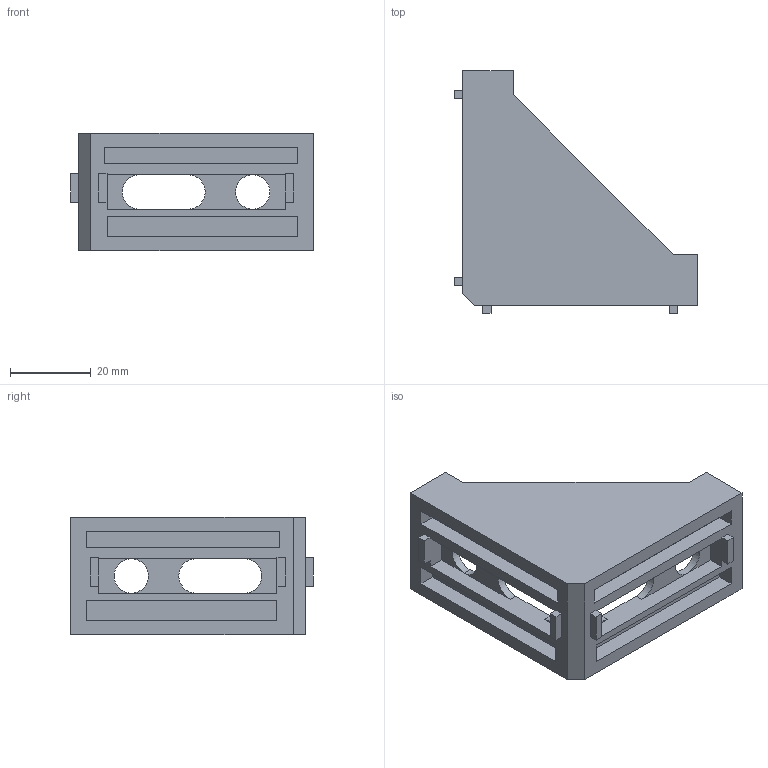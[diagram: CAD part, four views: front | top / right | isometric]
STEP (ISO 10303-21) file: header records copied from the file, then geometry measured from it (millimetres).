
FILE_DESCRIPTION (( 'STEP AP203' ), '1' );
FILE_NAME ('58－CE-RA3060-8.STEP', '2015-07-08T01:36:18', ( '' ), ( '' ), 'SwSTEP 2.0', 'SolidWorks 2013', '' );
FILE_SCHEMA (( 'CONFIG_CONTROL_DESIGN' ));
Length unit declared in the file: millimetre
Products named in the file (1): 58－CE-RA3060-8
Bounding box: 60 x 60 x 29 mm (x, y, z)
Volume: 16800.1 mm3; surface area: 12829.8 mm2
Topology: 1 solids, 1 shells, 72 faces, 198 edges, 130 vertices
Faces by surface type: plane 63, cylinder 9
Entity records: 2347 total; most frequent: CARTESIAN_POINT 401, ORIENTED_EDGE 396, DIRECTION 364, EDGE_CURVE 198, LINE 178, VECTOR 178, VERTEX_POINT 130, AXIS2_PLACEMENT_3D 93
